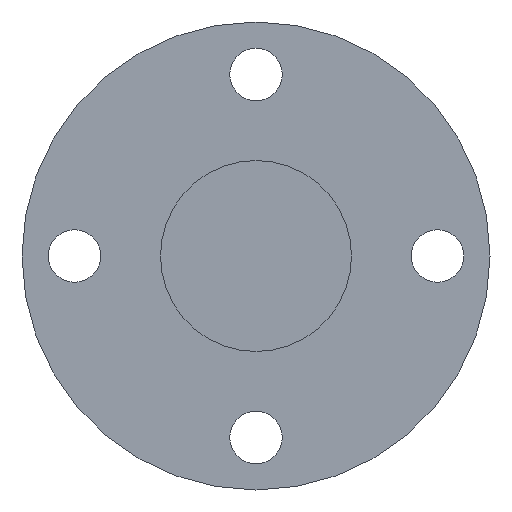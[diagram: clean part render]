
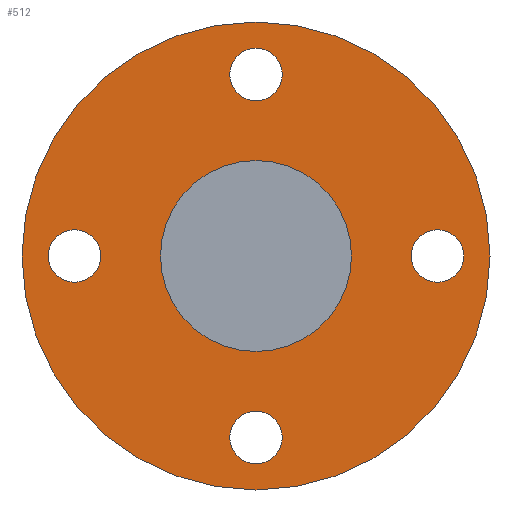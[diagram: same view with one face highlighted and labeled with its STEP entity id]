
A CAD part, left-side view. The second image highlights one B-rep face of the part: STEP entity #512.
In plain terms, the highlighted planar face has unit normal (-1, 0, 0).
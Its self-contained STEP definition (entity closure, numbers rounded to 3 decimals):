
#401=CARTESIAN_POINT('',(115.0,38.0,-5.5));
#402=VERTEX_POINT('',#401);
#403=CARTESIAN_POINT('',(115.0,38.0,0.));
#404=DIRECTION('',(1.0,0.0,0.0));
#405=DIRECTION('',(0.0,0.0,-1.0));
#406=AXIS2_PLACEMENT_3D('',#403,#404,#405);
#407=CIRCLE('',#406,5.5);
#408=EDGE_CURVE('',#402,#402,#407,.T.);
#421=CARTESIAN_POINT('',(115.0,-5.5,-38.0));
#422=VERTEX_POINT('',#421);
#423=CARTESIAN_POINT('',(115.0,0.,-38.0));
#424=DIRECTION('',(1.0,0.0,0.0));
#425=DIRECTION('',(0.0,-1.0,0.0));
#426=AXIS2_PLACEMENT_3D('',#423,#424,#425);
#427=CIRCLE('',#426,5.5);
#428=EDGE_CURVE('',#422,#422,#427,.T.);
#441=CARTESIAN_POINT('',(115.0,-38.0,5.5));
#442=VERTEX_POINT('',#441);
#443=CARTESIAN_POINT('',(115.0,-38.0,0.));
#444=DIRECTION('',(1.0,0.0,0.0));
#445=DIRECTION('',(0.0,0.0,1.0));
#446=AXIS2_PLACEMENT_3D('',#443,#444,#445);
#447=CIRCLE('',#446,5.5);
#448=EDGE_CURVE('',#442,#442,#447,.T.);
#461=CARTESIAN_POINT('',(115.0,5.5,38.0));
#462=VERTEX_POINT('',#461);
#463=CARTESIAN_POINT('',(115.0,0.0,38.0));
#464=DIRECTION('',(1.0,0.0,0.0));
#465=DIRECTION('',(0.0,1.0,0.0));
#466=AXIS2_PLACEMENT_3D('',#463,#464,#465);
#467=CIRCLE('',#466,5.5);
#468=EDGE_CURVE('',#462,#462,#467,.T.);
#473=CARTESIAN_POINT('',(115.0,0.0,34.5));
#474=DIRECTION('',(-1.0,0.0,0.0));
#475=DIRECTION('',(0.0,0.0,1.0));
#476=AXIS2_PLACEMENT_3D('',#473,#474,#475);
#477=PLANE('',#476);
#478=CARTESIAN_POINT('',(115.0,0.0,49.0));
#479=VERTEX_POINT('',#478);
#480=CARTESIAN_POINT('',(115.0,0.0,0.0));
#481=DIRECTION('',(-1.0,0.0,0.0));
#482=DIRECTION('',(0.0,0.0,1.0));
#483=AXIS2_PLACEMENT_3D('',#480,#481,#482);
#484=CIRCLE('',#483,49.0);
#485=EDGE_CURVE('',#479,#479,#484,.T.);
#486=ORIENTED_EDGE('',*,*,#485,.T.);
#487=EDGE_LOOP('',(#486));
#488=FACE_OUTER_BOUND('',#487,.T.);
#489=ORIENTED_EDGE('',*,*,#408,.T.);
#490=EDGE_LOOP('',(#489));
#491=FACE_BOUND('',#490,.T.);
#492=ORIENTED_EDGE('',*,*,#428,.T.);
#493=EDGE_LOOP('',(#492));
#494=FACE_BOUND('',#493,.T.);
#495=ORIENTED_EDGE('',*,*,#448,.T.);
#496=EDGE_LOOP('',(#495));
#497=FACE_BOUND('',#496,.T.);
#498=ORIENTED_EDGE('',*,*,#468,.T.);
#499=EDGE_LOOP('',(#498));
#500=FACE_BOUND('',#499,.T.);
#501=CARTESIAN_POINT('',(115.0,0.0,20.));
#502=VERTEX_POINT('',#501);
#503=CARTESIAN_POINT('',(115.0,0.0,0.0));
#504=DIRECTION('',(-1.0,0.0,0.0));
#505=DIRECTION('',(0.0,0.0,1.0));
#506=AXIS2_PLACEMENT_3D('',#503,#504,#505);
#507=CIRCLE('',#506,20.);
#508=EDGE_CURVE('',#502,#502,#507,.T.);
#509=ORIENTED_EDGE('',*,*,#508,.F.);
#510=EDGE_LOOP('',(#509));
#511=FACE_BOUND('',#510,.T.);
#512=ADVANCED_FACE('',(#488,#491,#494,#497,#500,#511),#477,.T.);
